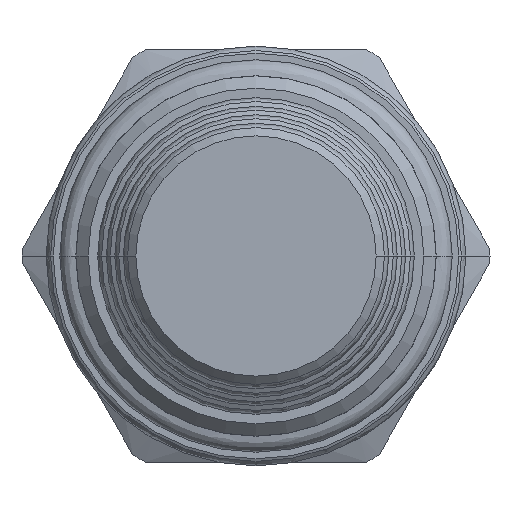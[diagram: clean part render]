
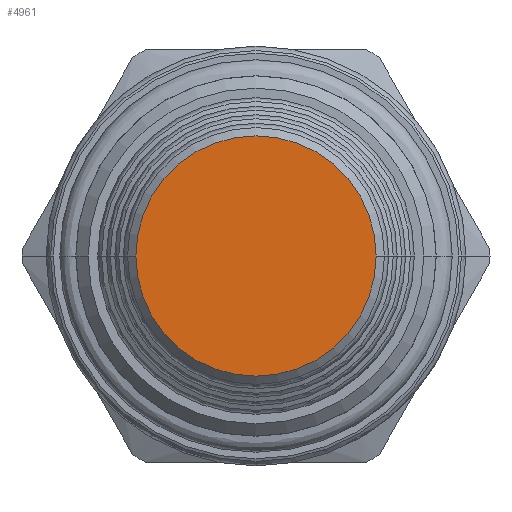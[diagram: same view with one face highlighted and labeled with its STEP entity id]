
A CAD part, front view. The second image highlights one B-rep face of the part: STEP entity #4961.
In plain terms, the highlighted planar face has unit normal (0, -1, 0).
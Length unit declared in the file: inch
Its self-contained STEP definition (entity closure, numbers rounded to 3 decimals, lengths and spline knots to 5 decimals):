
#1887=CARTESIAN_POINT('',(0.,-5.188,0.));
#1888=DIRECTION('',(0.,-1.,0.));
#1889=DIRECTION('',(-1.,0.,0.));
#1890=AXIS2_PLACEMENT_3D('',#1887,#1888,#1889);
#1897=CARTESIAN_POINT('',(0.,-5.188,0.));
#1898=DIRECTION('',(0.,-1.,0.));
#1899=DIRECTION('',(1.,0.,0.));
#1900=AXIS2_PLACEMENT_3D('',#1897,#1898,#1899);
#2127=CARTESIAN_POINT('',(-0.437,-5.188,0.));
#2128=CARTESIAN_POINT('',(0.437,-5.188,0.));
#2129=VERTEX_POINT('',#2127);
#2130=VERTEX_POINT('',#2128);
#4951=CARTESIAN_POINT('',(0.,-5.188,0.));
#4952=DIRECTION('',(0.,1.,0.));
#4953=DIRECTION('',(1.,0.,0.));
#4954=AXIS2_PLACEMENT_3D('',#4951,#4952,#4953);
#4955=PLANE('',#4954);
#4956=ORIENTED_EDGE('',*,*,#4941,.F.);
#4958=ORIENTED_EDGE('',*,*,#4957,.F.);
#4959=EDGE_LOOP('',(#4956,#4958));
#4960=FACE_OUTER_BOUND('',#4959,.F.);
#4961=ADVANCED_FACE('',(#4960),#4955,.F.);
#1891=CIRCLE('',#1890,0.437);
#1901=CIRCLE('',#1900,0.437);
#4941=EDGE_CURVE('',#2129,#2130,#1891,.T.);
#4957=EDGE_CURVE('',#2130,#2129,#1901,.T.);
